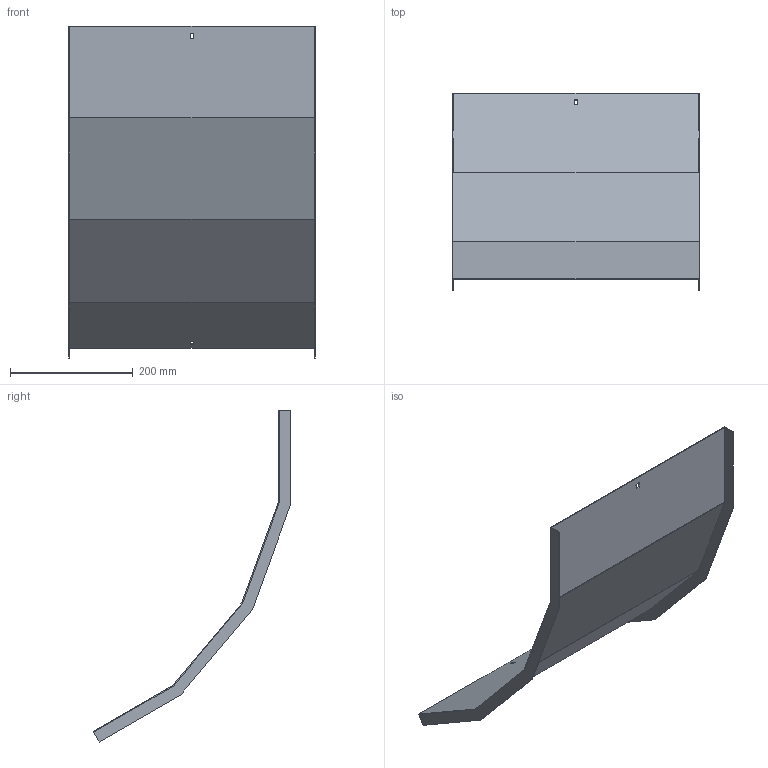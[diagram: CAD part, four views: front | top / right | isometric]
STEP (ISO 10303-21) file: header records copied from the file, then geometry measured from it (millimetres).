
FILE_DESCRIPTION (( 'STEP AP214' ), '1' );
FILE_NAME ('A2X40N5R400X.step', '2025-03-20T09:44:04', ( '' ), ( '' ), 'SwSTEP 2.0', 'SolidWorks 2023', '' );
FILE_SCHEMA (( 'AUTOMOTIVE_DESIGN' ));
Length unit declared in the file: millimetre
Products named in the file (1): A2X40N5R400X
Bounding box: 403 x 322.96 x 542.06 mm (x, y, z)
Volume: 430859.4 mm3; surface area: 577907.4 mm2
Topology: 1 solids, 1 shells, 30 faces, 84 edges, 56 vertices
Faces by surface type: plane 30
Entity records: 979 total; most frequent: CARTESIAN_POINT 171, ORIENTED_EDGE 168, DIRECTION 146, LINE 84, EDGE_CURVE 84, VECTOR 84, VERTEX_POINT 56, EDGE_LOOP 34
